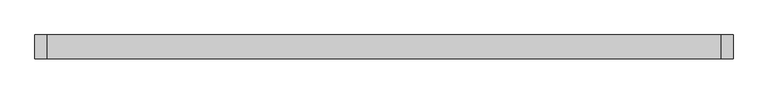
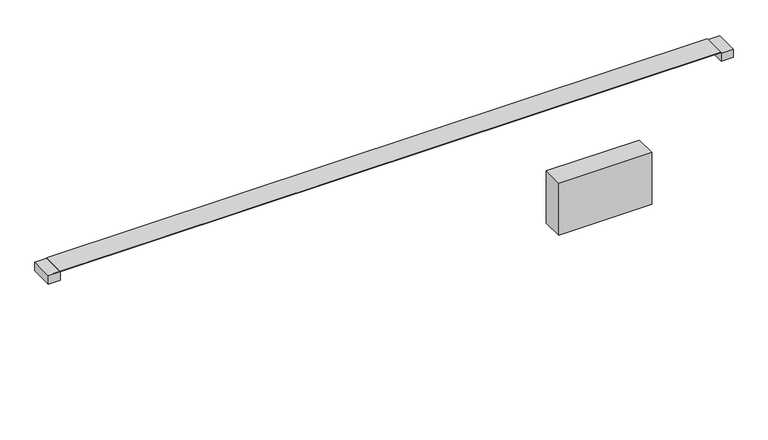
"""IFC4 building model written with IfcOpenShell, lengths in millimetres: light fixture geometry, Fabbian.Pivot F39 (F39 A01A 01,F39 A01A 21,F39 A01A 76,F39 A02A 01,F39 A02A 21,F39 A02A 76) : F39 A01A 01."""

from ifc_helpers import new_model, si_unit, frame, origin, place, context, project, spatial, polyline, outline, extrude, source, transform, mapped, element, save


def light_fixture_cd4f6d3a(model_context):
    return source(origin(), model_context, "Body", "SweptSolid", [
        extrude(outline(polyline([(619.1350388, 24.9666442), (619.1350388, -25.0334567), (399.1348055, -25.0334567), (399.1348055, 24.9666442), (619.1350388, 24.9666442)])), frame((0.0, 0.0, -142.875), z_axis=(0.0, 0.0, 1.0), x_axis=(1.0, 0.0, 0.0)), (0.0, 0.0, 1.0), 130.175),
        extrude(outline(polyline([(-0.4107254, 159.893756), (-26.3879175, 181.0787506), (25.5497693, 181.0787506), (0.4107259, 159.893756), (0.4107259, 160.681594), (-0.4107254, 160.681594), (-0.4107254, 159.893756)])), frame((-782.3132834, 0.0, 0.0), z_axis=(1.0, 0.0, 0.0), x_axis=(0.0, 1.0, 0.0)), (0.0, 0.0, 1.0), 1564.6265668),
        extrude(outline(polyline([(-782.3132834, 27.7285043), (-782.3132834, -27.7953166), (-810.5140956, -27.7953166), (-810.5140956, 27.7285043), (-782.3132834, 27.7285043)])), frame((0.0, 0.0, 159.6242394), z_axis=(0.0, 0.0, 1.0), x_axis=(1.0, 0.0, 0.0)), (0.0, 0.0, 1.0), 20.8761838),
        extrude(outline(polyline([(782.3132834, 27.7285042), (810.5140956, 27.7285042), (810.5140956, -27.7953167), (782.3132834, -27.7953167), (782.3132834, 27.7285042)])), frame((0.0, 0.0, 159.6242394), z_axis=(0.0, 0.0, 1.0), x_axis=(1.0, 0.0, 0.0)), (0.0, 0.0, 1.0), 20.8761838),
        extrude(outline(polyline([(0.0, -0.8214513), (0.0, 0.0), (1564.6265668, 0.0), (1564.6265668, -0.8214513), (0.0, -0.8214513)])), frame((-782.3132834, 0.4107259, 159.893756), z_axis=(-5.7155291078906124e-11, 0.0, 1.0), x_axis=(1.0, 0.0, 5.7155291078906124e-11)), (0.0, 0.0, 1.0), 0.787838),
        extrude(outline(polyline([(781.7488887, -27.7780006), (-782.3132834, -27.7780006), (-782.3132834, 27.7779986), (781.7488887, 27.7779986), (781.7488887, -27.7780006)])), frame((0.0, 0.0, 181.0787506), z_axis=(0.0, 0.0, 1.0), x_axis=(1.0, 0.0, 0.0)), (0.0, 0.0, 1.0), 1.1514277),
    ])


if __name__ == "__main__":
    model = new_model("IFC4")
    model_context = context("Model", 3, world=origin())
    ifc_project = project(units=[si_unit("LENGTHUNIT", "METRE", prefix="MILLI")], contexts=[model_context])
    site = spatial("IfcSite", under=ifc_project)
    building = spatial("IfcBuilding", under=site)
    placement = place(None, origin())
    light_fixture_shape = light_fixture_cd4f6d3a(model_context)
    element("IfcLightFixture", 1, ObjectType="Fabbian.Pivot F39 (F39 A01A 01,F39 A01A 21,F39 A01A 76,F39 A02A 01,F39 A02A 21,F39 A02A 76) : F39 A01A 01", at=placement, inside=building, context=model_context, shape_type="MappedRepresentation", body=[
        mapped(light_fixture_shape, transform((0.0, 0.0, 0.0), x_axis=(1.0, 0.0, 0.0), y_axis=(0.0, 1.0, 0.0), z_axis=(0.0, 0.0, 1.0))),
    ])
    save(model, "model.ifc")
